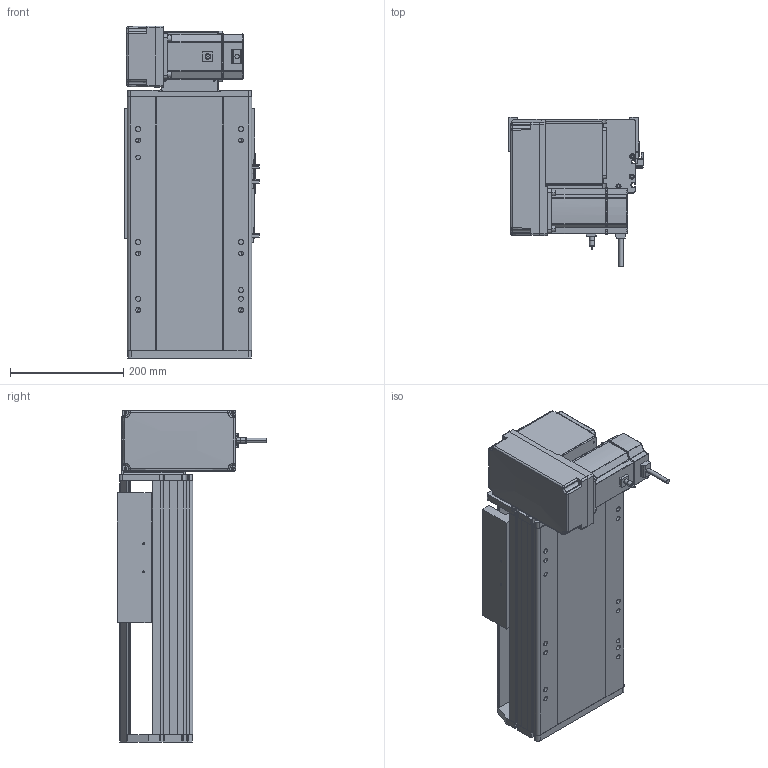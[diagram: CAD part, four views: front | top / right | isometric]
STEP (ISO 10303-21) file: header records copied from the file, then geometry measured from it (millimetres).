
FILE_DESCRIPTION (( 'STEP AP214' ), '1' );
FILE_NAME ('RTB22S-XX-100-LM-M75-C4.STEP', '2025-12-12T03:44:14', ( '' ), ( '' ), 'SwSTEP 2.0', 'SolidWorks 2018', '' );
FILE_SCHEMA (( 'AUTOMOTIVE_DESIGN' ));
Length unit declared in the file: millimetre
Products named in the file (14): 750W萇儂^RTB22S-XX-XX-LM-M75-C4; RTB22S-XX-100-LM-M75-C4; RMP22S-LM-々湍釱蚾饜^RTB22S-XX-XX-LM-M75-C4; RTB22S-GY-005P^RMP22S-LM-々湍釱蚾饜_RTB22S-XX-XX-LM-M75-C4; RTB22S-GY-018P^RMP22S-LM-々湍釱蚾饜_RTB22S-XX-XX-LM-M75-C4; RTB22S-GY-017P^RMP22S-LM-々湍釱蚾饜_RTB22S-XX-XX-LM-M75-C4; RTB22S-GY-007奻裔^RTB22S-XX-XX-LM-M75-C4; RTB22S-GY-008-M75--萇儂啣^RMP22S-LM-々湍釱蚾饜_RTB22S-XX-XX-LM-M75-C4; RTB22S-L-011菁釱^RTB22S-XX-XX-LM-M75-C4; OMRON EE-SX672 传感器^RTB22S-XX-XX-LM-M75-C4; RTB22S-GY-001耜裔^RTB22S-XX-XX-LM-M75-C4; RTB22S-L-004賑釱^RTB22S-XX-XX-LM-M75-C4; RTB22S-GY-014--々湍釱^RMP22S-LM-々湍釱蚾饜_RTB22S-XX-XX-LM-M75-C4; RTH22-GY-013外置感应片^RTB22S-XX-XX-LM-M75-C4
Assembly tree (16 placements, depth 3):
  RTB22S-XX-100-LM-M75-C4
    RTB22S-L-011菁釱^RTB22S-XX-XX-LM-M75-C4
    RTB22S-GY-001耜裔^RTB22S-XX-XX-LM-M75-C4
    750W萇儂^RTB22S-XX-XX-LM-M75-C4
    RTB22S-GY-007奻裔^RTB22S-XX-XX-LM-M75-C4
    RTB22S-L-004賑釱^RTB22S-XX-XX-LM-M75-C4
    RTH22-GY-013外置感应片^RTB22S-XX-XX-LM-M75-C4
    OMRON EE-SX672 传感器^RTB22S-XX-XX-LM-M75-C4  x3
    RMP22S-LM-々湍釱蚾饜^RTB22S-XX-XX-LM-M75-C4
      RTB22S-GY-014--々湍釱^RMP22S-LM-々湍釱蚾饜_RTB22S-XX-XX-LM-M75-C4
      RTB22S-GY-017P^RMP22S-LM-々湍釱蚾饜_RTB22S-XX-XX-LM-M75-C4  x2
      RTB22S-GY-005P^RMP22S-LM-々湍釱蚾饜_RTB22S-XX-XX-LM-M75-C4
      RTB22S-GY-008-M75--萇儂啣^RMP22S-LM-々湍釱蚾饜_RTB22S-XX-XX-LM-M75-C4
      RTB22S-GY-018P^RMP22S-LM-々湍釱蚾饜_RTB22S-XX-XX-LM-M75-C4
Bounding box: 238.5 x 264.7 x 587.5 mm (x, y, z)
Volume: 10803092.6 mm3; surface area: 1168160.5 mm2
Topology: 15 solids, 15 shells, 1893 faces, 5136 edges, 3302 vertices
Faces by surface type: plane 905, cylinder 562, bspline 296, cone 118, sphere 8, torus 4
Entity records: 49478 total; most frequent: CARTESIAN_POINT 14432, ORIENTED_EDGE 7100, DIRECTION 6744, EDGE_CURVE 3550, AXIS2_PLACEMENT_3D 2346, VERTEX_POINT 2306, VECTOR 2052, LINE 2052
